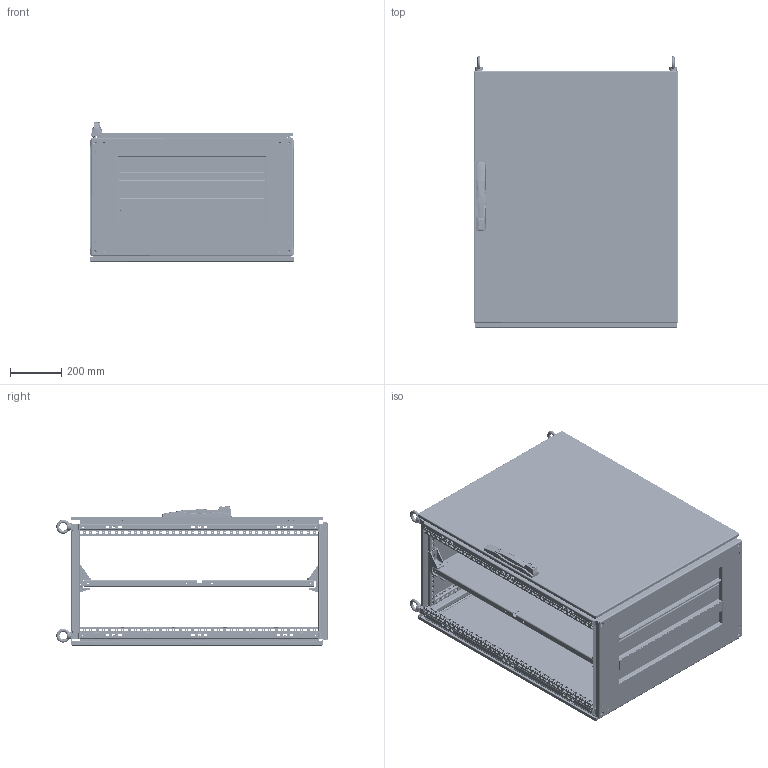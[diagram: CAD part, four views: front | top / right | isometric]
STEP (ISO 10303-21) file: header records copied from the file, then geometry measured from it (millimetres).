
FILE_DESCRIPTION (( 'STEP AP203' ), '1' );
FILE_NAME ('p2k1085e.STEP', '2016-09-20T19:03:27', ( '' ), ( '' ), 'SwSTEP 2.0', 'SolidWorks 2014', '' );
FILE_SCHEMA (( 'CONFIG_CONTROL_DESIGN' ));
Length unit declared in the file: millimetre
Products named in the file (82): 50612100; 87790199; 60127207; 89127312; 60127093; 89124256_89124256; 51140001; 60127013; 87576035_87576035; 89091664_875472289; 89128488_89001805; 89124407; 89136293_closed; 89127395_87934847; 11358767_11358767; 89124408_89124408; 51138002_Compressed; 89128032; 60127216_60127216; 89126136_89124179; 89128486; 89129211; 89130021_Installed RH Bot side - pin in; 89140494_BBD; 89127279; 51138001_Compressed; 89133232_Cometic Threads; 46139001_46139001; 89127961; 60127139_60127139; 89126139_89124180; 89129208; 89128541; 89128784_89128784; 89126674_89001786; 89126607; 60127208; 89124255_89124255; 11258012; 89127979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
Assembly tree (165 placements, depth 5):
  p2k1085e
    89128327
      60127013  x8
      89128032  x4
      89127961  x4
      89127979  x4
      89127988  x4
      89128008  x4
      89128045  x4
    89124255_89124255  x6
      89124256_89124256
      89124408_89124408
      89133232_Cometic Threads
    89127279
      89127312
        89127366_2000x600
        60100041_60100041  x2
          87931527_87931527
          87931368_SLEEVE
      89127395_87934847
    89126607
    89120016  x4
    89122652  x4
    89130021_Installed RH Bot side - pin in  x3
      89124210_89124210
      89122602
      87790199
      89124407
      89133232_Cometic Threads
    89140494_BBD
      89128769_89128769
        89128784_89128784
        60100041_60100041  x2
          87931527_87931527
          87931368_SLEEVE
        89124458_After Weld  x3
        60127172_60127172  x3
        87920638_87920638  x12
      89128811_89128811
      89128826_89124178
        89091664_875472289  x4
        89126136_89124179  x2
        89126139_89124180  x2
      89133874
        89128802
        60127175_60127175  x2
        60127216_60127216  x3
          60127140_60127140
          60127138_60127138
          87576035_87576035
        60127139_60127139  x2
        11158132_THIKNESS .155 FIXED  x6
        11158133_11581133  x3
      89136293_closed
        89101542_closed
          11458036
          89101543
          51140001
          51138002_Compressed
          46139001_46139001
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Bounding box: 798.8 x 1061.13 x 545.18 mm (x, y, z)
Volume: 11403638.2 mm3; surface area: 10547416.1 mm2
Topology: 175 solids, 175 shells, 17030 faces, 45793 edges, 29197 vertices
Faces by surface type: plane 8879, cylinder 5964, torus 818, cone 677, bspline 630, sphere 62
Entity records: 223050 total; most frequent: CARTESIAN_POINT 53248, ORIENTED_EDGE 33330, DIRECTION 32444, EDGE_CURVE 16665, AXIS2_PLACEMENT_3D 11199, VERTEX_POINT 10597, LINE 10046, VECTOR 10046
